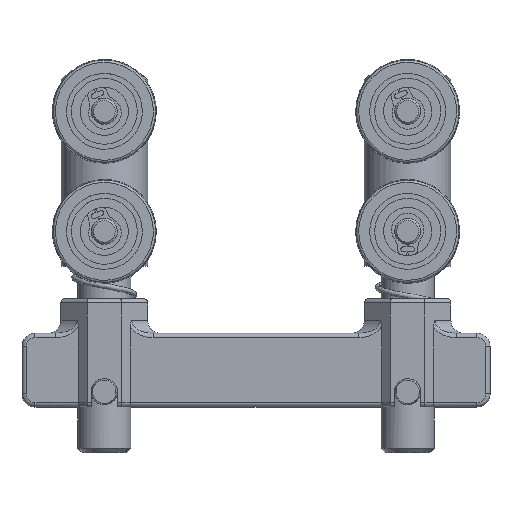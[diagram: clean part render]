
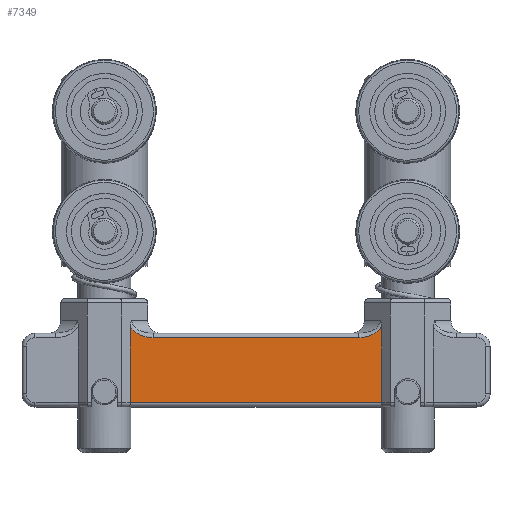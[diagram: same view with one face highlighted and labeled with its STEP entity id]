
A CAD part, top view. The second image highlights one B-rep face of the part: STEP entity #7349.
In plain terms, the highlighted planar face has unit normal (0, 0, 1).
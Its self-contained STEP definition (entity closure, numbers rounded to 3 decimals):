
#83 = VERTEX_POINT ( 'NONE', #3252 ) ;
#1117 = CARTESIAN_POINT ( 'NONE',  ( 29., 0., -2. ) ) ;
#1118 = PLANE ( 'NONE',  #1404 ) ;
#1120 = DIRECTION ( 'NONE',  ( 0., 0., -1. ) ) ;
#1121 = DIRECTION ( 'NONE',  ( -1., 0., 0. ) ) ;
#1404 = AXIS2_PLACEMENT_3D ( 'NONE', #1117, #1120, #1121 ) ;
#1590 = CARTESIAN_POINT ( 'NONE',  ( 83., 18.498, -2. ) ) ;
#1608 = CARTESIAN_POINT ( 'NONE',  ( 83., 0., -2. ) ) ;
#1638 = CARTESIAN_POINT ( 'NONE',  ( 25., 18.498, -2. ) ) ;
#1660 = CARTESIAN_POINT ( 'NONE',  ( 25., 0., -2. ) ) ;
#1708 = CARTESIAN_POINT ( 'NONE',  ( 82.107, 16.939, -2. ) ) ;
#1749 = CARTESIAN_POINT ( 'NONE',  ( 29.243, 16., -2. ) ) ;
#1774 = CARTESIAN_POINT ( 'NONE',  ( 77.757, 16., -2. ) ) ;
#1887 = CARTESIAN_POINT ( 'NONE',  ( 83., 1., -2. ) ) ;
#1916 = CARTESIAN_POINT ( 'NONE',  ( 25.893, 16.939, -2. ) ) ;
#1926 = DIRECTION ( 'NONE',  ( 0., 1., 0. ) ) ;
#1930 = DIRECTION ( 'NONE',  ( -1., 0., 0. ) ) ;
#2004 = DIRECTION ( 'NONE',  ( 0., -1., 0. ) ) ;
#2014 = DIRECTION ( 'NONE',  ( 1., 0., 0. ) ) ;
#2066 = CARTESIAN_POINT ( 'NONE',  ( 80.135, 16., -2. ) ) ;
#2079 = CARTESIAN_POINT ( 'NONE',  ( 30.243, 16., -2. ) ) ;
#2084 = CARTESIAN_POINT ( 'NONE',  ( 27.865, 16., -2. ) ) ;
#2116 = VERTEX_POINT ( 'NONE', #3123 ) ;
#2128 = VERTEX_POINT ( 'NONE', #3098 ) ;
#2153 = VERTEX_POINT ( 'NONE', #3119 ) ;
#2168 = VERTEX_POINT ( 'NONE', #3543 ) ;
#2253 = VERTEX_POINT ( 'NONE', #3190 ) ;
#2362 = EDGE_CURVE ( 'NONE', #2253, #83, #11109, .T. ) ;
#2363 = EDGE_CURVE ( 'NONE', #83, #2128, #5993, .T. ) ;
#2364 = EDGE_CURVE ( 'NONE', #2128, #2116, #11113, .T. ) ;
#2365 = EDGE_CURVE ( 'NONE', #2116, #2168, #6036, .T. ) ;
#2366 = EDGE_CURVE ( 'NONE', #2168, #2153, #11115, .T. ) ;
#2367 = EDGE_CURVE ( 'NONE', #2153, #2253, #11116, .T. ) ;
#3098 = CARTESIAN_POINT ( 'NONE',  ( 77.757, 16., -2. ) ) ;
#3119 = CARTESIAN_POINT ( 'NONE',  ( 25., 1., -2. ) ) ;
#3123 = CARTESIAN_POINT ( 'NONE',  ( 30.243, 16., -2. ) ) ;
#3190 = CARTESIAN_POINT ( 'NONE',  ( 83., 1., -2. ) ) ;
#3252 = CARTESIAN_POINT ( 'NONE',  ( 83., 18.498, -2. ) ) ;
#3321 = FACE_OUTER_BOUND ( 'NONE', #9222, .T. ) ;
#3543 = CARTESIAN_POINT ( 'NONE',  ( 25., 18.498, -2. ) ) ;
#5993 =( BOUNDED_CURVE ( )  B_SPLINE_CURVE ( 3, ( #1590, #1708, #2066, #1774 ),
 .UNSPECIFIED., .F., .T. ) 
 B_SPLINE_CURVE_WITH_KNOTS ( ( 4, 4 ),
 ( 3.527, 4.712 ),
 .UNSPECIFIED. ) 
 CURVE ( )  GEOMETRIC_REPRESENTATION_ITEM ( )  RATIONAL_B_SPLINE_CURVE ( ( 1., 0.886, 0.886, 1. ) ) 
 REPRESENTATION_ITEM ( '' )  );
#6036 =( BOUNDED_CURVE ( )  B_SPLINE_CURVE ( 3, ( #2079, #2084, #1916, #1638 ),
 .UNSPECIFIED., .F., .F. ) 
 B_SPLINE_CURVE_WITH_KNOTS ( ( 4, 4 ),
 ( 4.712, 5.898 ),
 .UNSPECIFIED. ) 
 CURVE ( )  GEOMETRIC_REPRESENTATION_ITEM ( )  RATIONAL_B_SPLINE_CURVE ( ( 1., 0.886, 0.886, 1. ) ) 
 REPRESENTATION_ITEM ( '' )  );
#7349 = ADVANCED_FACE ( 'NONE', ( #3321 ), #1118, .F. ) ;
#9222 = EDGE_LOOP ( 'NONE', ( #9930, #9843, #9844, #9845, #9846, #9847 ) ) ;
#9843 = ORIENTED_EDGE ( 'NONE', *, *, #2363, .T. ) ;
#9844 = ORIENTED_EDGE ( 'NONE', *, *, #2364, .T. ) ;
#9845 = ORIENTED_EDGE ( 'NONE', *, *, #2365, .T. ) ;
#9846 = ORIENTED_EDGE ( 'NONE', *, *, #2366, .T. ) ;
#9847 = ORIENTED_EDGE ( 'NONE', *, *, #2367, .T. ) ;
#9930 = ORIENTED_EDGE ( 'NONE', *, *, #2362, .T. ) ;
#11109 = LINE ( 'NONE', #1608, #11112 ) ;
#11112 = VECTOR ( 'NONE', #1926, 1000. ) ;
#11113 = LINE ( 'NONE', #1749, #11114 ) ;
#11114 = VECTOR ( 'NONE', #1930, 1000. ) ;
#11115 = LINE ( 'NONE', #1660, #11117 ) ;
#11116 = LINE ( 'NONE', #1887, #11119 ) ;
#11117 = VECTOR ( 'NONE', #2004, 1000. ) ;
#11119 = VECTOR ( 'NONE', #2014, 1000. ) ;
